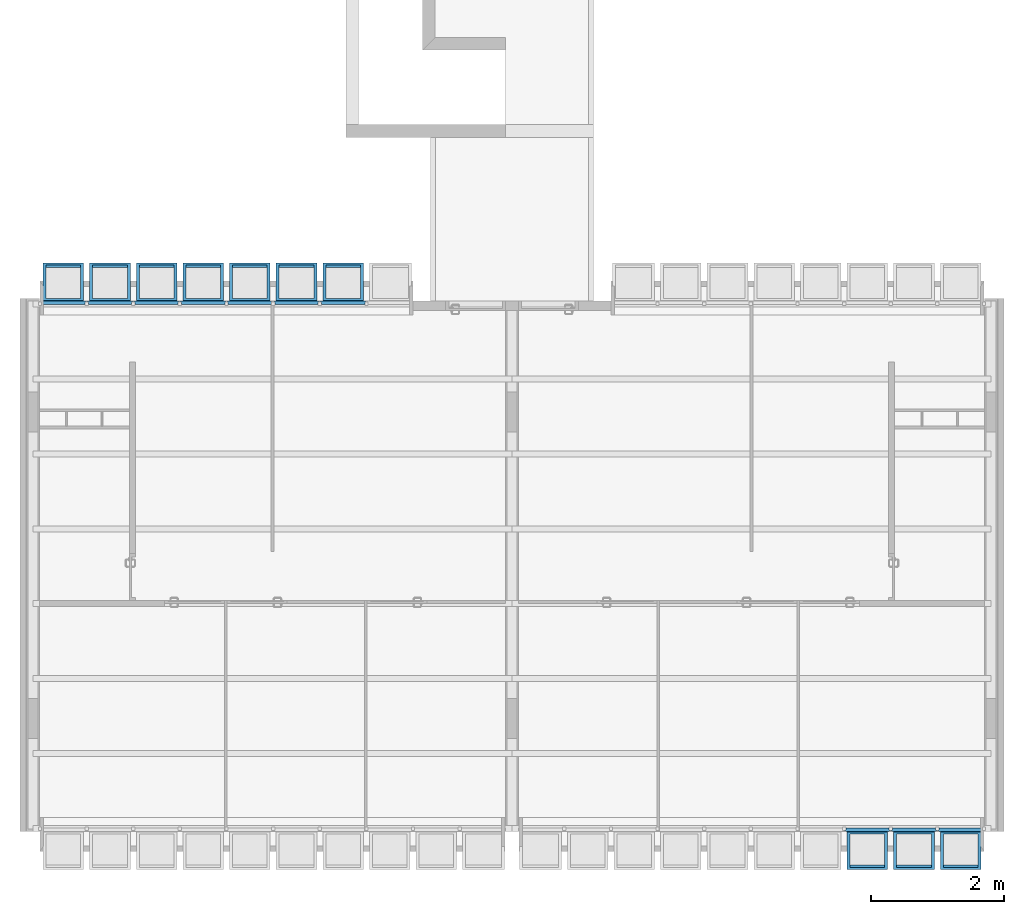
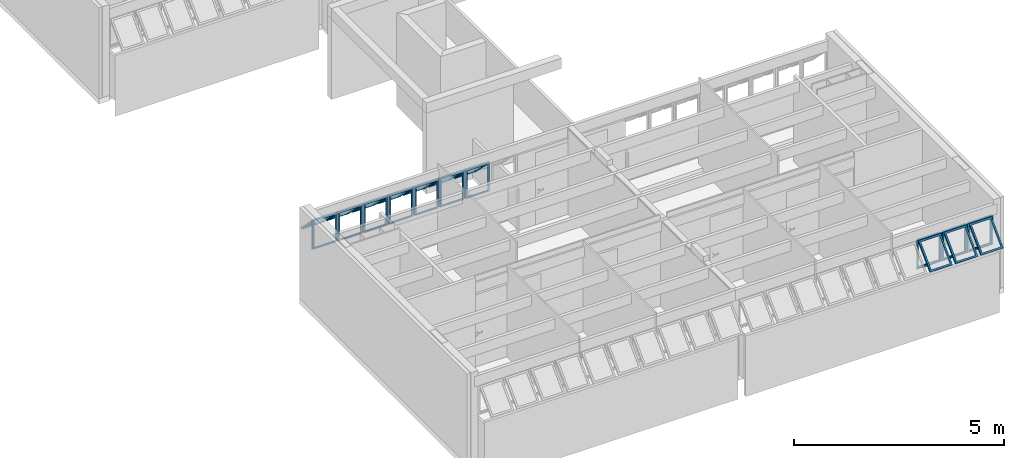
# One storey, part 29 of 37: 10 building element parts, 12 elements without a shape of their own.
"""IFC2X3 building model written with IfcOpenShell, lengths in millimetres."""

import ifcopenshell
import ifcopenshell.guid

model = None  # the IFC model being written
_history = None  # IfcOwnerHistory: only IFC2X3 demands one
_inside = {}  # id of a spatial element -> (the spatial element, [elements in it])
_under = {}  # id of a project, library or spatial element -> (it, [spatial elements below it])
_declared = {}  # id of a project -> (the project, [libraries it declares])
_typed = {}  # id of a type object -> (the type object, [elements of that type])
_made_of = {}  # id of a material, layer set ... -> (it, [elements and type objects made of it])


def new_model(schema):
    """Start an empty IFC model of exactly this schema.

    Asked for "IFC4X3", IfcOpenShell would pick the latest addendum, in which some entities
    have other attributes; the version numbers below select the first issue.
    IFC2X3 requires an IfcOwnerHistory on every rooted entity: one is made here for all.
    """
    global model, _history
    if schema == "IFC4X3":
        model = ifcopenshell.file(schema_version=(4, 3, 0, 0))
    else:
        model = ifcopenshell.file(schema=schema)
    _inside.clear()
    _under.clear()
    _declared.clear()
    _typed.clear()
    _made_of.clear()
    _history = None
    if model.schema == "IFC2X3":
        org = make("IfcOrganization", Name="unknown")
        user = make(
            "IfcPersonAndOrganization",
            ThePerson=make("IfcPerson", FamilyName="unknown"),
            TheOrganization=org,
        )
        app = make(
            "IfcApplication",
            ApplicationDeveloper=org,
            Version="unknown",
            ApplicationFullName="unknown",
            ApplicationIdentifier="unknown",
        )
        _history = make(
            "IfcOwnerHistory",
            OwningUser=user,
            OwningApplication=app,
            ChangeAction="ADDED",
            CreationDate=0,
        )
    return model


def make(cls, **values):
    """One entity of the class cls with the attributes given. An attribute that is None is left unset."""
    return model.create_entity(
        cls, **{name: value for name, value in values.items() if value is not None}
    )


def entity(cls, *values):
    """Any entity or typed value of the class cls, its attributes in the order of the schema. None: left unset."""
    e = model.create_entity(cls)
    for i, value in enumerate(values):
        if value is not None:
            e[i] = value
    return e


def rooted(cls, **values):
    """An entity with a GlobalId (a new one), such as an element, a storey or a relation."""
    return make(cls, GlobalId=ifcopenshell.guid.new(), OwnerHistory=_history, **values)


def si_unit(unit_type, name, prefix=None):
    """IfcSIUnit, for example si_unit("LENGTHUNIT", "METRE", prefix="MILLI")."""
    return make("IfcSIUnit", UnitType=unit_type, Prefix=prefix, Name=name)


def converted_unit(unit_type, name, factor, base, dimensions=None, offset=None):
    """IfcConversionBasedUnit, such as the inch: factor (a typed value) times the base unit."""
    return make(
        "IfcConversionBasedUnit"
        if offset is None
        else "IfcConversionBasedUnitWithOffset",
        ConversionOffset=offset,
        Dimensions=None
        if dimensions is None
        else entity("IfcDimensionalExponents", *dimensions),
        UnitType=unit_type,
        Name=name,
        ConversionFactor=make(
            "IfcMeasureWithUnit", ValueComponent=factor, UnitComponent=base
        ),
    )


def derived_unit(unit_type, elements):
    """IfcDerivedUnit: a product of units, each with its exponent."""
    return make(
        "IfcDerivedUnit",
        Elements=[
            make("IfcDerivedUnitElement", Unit=unit, Exponent=power)
            for unit, power in elements
        ],
        UnitType=unit_type,
    )


def money_unit(currency):
    """IfcMonetaryUnit."""
    return make("IfcMonetaryUnit", Currency=currency)


def assignment(units):
    """IfcUnitAssignment: the units of a project."""
    return None if units is None else make("IfcUnitAssignment", Units=units)


def point(xyz):
    """IfcCartesianPoint."""
    return None if xyz is None else make("IfcCartesianPoint", Coordinates=xyz)


def direction(xyz):
    """IfcDirection."""
    return None if xyz is None else make("IfcDirection", DirectionRatios=xyz)


def frame(location, z_axis=None, x_axis=None):
    """IfcAxis2Placement3D, a coordinate frame: its origin and axes. An axis left out is left unset."""
    return make(
        "IfcAxis2Placement3D",
        Location=point(location),
        Axis=direction(z_axis),
        RefDirection=direction(x_axis),
    )


def origin_with_axes():
    """The frame at (0, 0, 0) with the z axis (0, 0, 1) and the x axis (1, 0, 0) written out."""
    return frame((0.0, 0.0, 0.0), z_axis=(0.0, 0.0, 1.0), x_axis=(1.0, 0.0, 0.0))


def place(relative_to, where):
    """IfcLocalPlacement: puts the frame where relative to a parent placement (None: the world)."""
    return make(
        "IfcLocalPlacement", PlacementRelTo=relative_to, RelativePlacement=where
    )


def context(
    kind, dimensions, precision=None, world=None, true_north=None, identifier=None
):
    """IfcGeometricRepresentationContext, for example the 3D "Model" context."""
    return make(
        "IfcGeometricRepresentationContext",
        ContextIdentifier=identifier,
        ContextType=kind,
        CoordinateSpaceDimension=dimensions,
        Precision=precision,
        WorldCoordinateSystem=world,
        TrueNorth=true_north,
    )


def subcontext(parent, identifier, kind, view, scale=None):
    """IfcGeometricRepresentationSubContext, for example "Body" below "Model"."""
    return make(
        "IfcGeometricRepresentationSubContext",
        ContextIdentifier=identifier,
        ContextType=kind,
        ParentContext=parent,
        TargetScale=scale,
        TargetView=view,
    )


def project(units=None, contexts=None):
    """IfcProject with its units and contexts."""
    return rooted(
        "IfcProject",
        Name="project",
        RepresentationContexts=contexts,
        UnitsInContext=assignment(units),
    )


def spatial(cls, under=None, at=None, **own):
    """A site, building, storey or space (cls), placed at a placement, below another one or the project."""
    s = rooted(cls, ObjectPlacement=at, **own)
    if under is not None:
        _under.setdefault(under.id(), (under, []))[1].append(s)
    return s


def faces_of(points, faces, orient=None, outer=None):
    """IfcFace entities. A face is a list of loops; a loop is a list of indices into points, from 0.

    orient and outer hold one flag for each loop. By default every Orientation is true, the
    first loop of a face is its IfcFaceOuterBound and the others are IfcFaceBound.
    """
    made = []
    for i, loops in enumerate(faces):
        bounds = []
        for j, loop in enumerate(loops):
            is_outer = j == 0 if outer is None else outer[i][j]
            bounds.append(
                make(
                    "IfcFaceOuterBound" if is_outer else "IfcFaceBound",
                    Bound=make("IfcPolyLoop", Polygon=[points[k] for k in loop]),
                    Orientation=True if orient is None else orient[i][j],
                )
            )
        made.append(make("IfcFace", Bounds=bounds))
    return made


def faceted_brep(points, faces, orient=None, outer=None, voids=None):
    """IfcFacetedBrep: a solid bounded by flat faces; with voids (closed shells), ...WithVoids."""
    shared = [point(p) for p in points]
    hull = make("IfcClosedShell", CfsFaces=faces_of(shared, faces, orient, outer))
    if voids is None:
        return make("IfcFacetedBrep", Outer=hull)
    return make(
        "IfcFacetedBrepWithVoids",
        Outer=hull,
        Voids=[
            make(cls, CfsFaces=faces_of(shared, fs, o, b)) for cls, fs, o, b in voids
        ],
    )


def shape(context_of_items, identifier, shape_type, items):
    """IfcShapeRepresentation: the items that make up one representation, for example the "Body"."""
    return make(
        "IfcShapeRepresentation",
        ContextOfItems=context_of_items,
        RepresentationIdentifier=identifier,
        RepresentationType=shape_type,
        Items=items,
    )


def source(mapping_origin, context_of_items, identifier, shape_type, items):
    """IfcRepresentationMap: a shape defined once, which mapped items show again and again."""
    return make(
        "IfcRepresentationMap",
        MappingOrigin=mapping_origin,
        MappedRepresentation=shape(context_of_items, identifier, shape_type, items),
    )


def transform(
    local_origin,
    x_axis=None,
    y_axis=None,
    z_axis=None,
    scale=None,
    scale2=None,
    scale3=None,
    uniform=True,
):
    """IfcCartesianTransformationOperator3D, or its non-uniform kind. x_axis, y_axis, z_axis: its Axis1, 2, 3."""
    if uniform:
        return make(
            "IfcCartesianTransformationOperator3D",
            Axis1=direction(x_axis),
            Axis2=direction(y_axis),
            LocalOrigin=point(local_origin),
            Scale=scale,
            Axis3=direction(z_axis),
        )
    return make(
        "IfcCartesianTransformationOperator3DnonUniform",
        Axis1=direction(x_axis),
        Axis2=direction(y_axis),
        LocalOrigin=point(local_origin),
        Scale=scale,
        Axis3=direction(z_axis),
        Scale2=scale2,
        Scale3=scale3,
    )


def mapped(mapping_source, mapping_target):
    """IfcMappedItem: shows the shape of a source again, moved by a transform."""
    return make(
        "IfcMappedItem", MappingSource=mapping_source, MappingTarget=mapping_target
    )


def material(Name=None, Category=None):
    """IfcMaterial."""
    return make("IfcMaterial", Name=Name, Category=Category)


def made_of(thing, what):
    """Note that an element or type object is made of a material, layer set ...; save() writes the relation."""
    if what is not None:
        _made_of.setdefault(what.id(), (what, []))[1].append(thing)
    return thing


def type_object(cls, material=None, **own):
    """A type object (cls), such as IfcWallType, which elements share."""
    return made_of(rooted(cls, **own), material)


def element(
    cls,
    number,
    at=None,
    inside=None,
    cuts=None,
    type_object=None,
    material=None,
    context=None,
    identifier="Body",
    shape_type=None,
    held_by="IfcProductDefinitionShape",
    body=None,
    shapes=None,
    **own,
):
    """One element of the class cls, such as IfcWall. Its Tag is "e" and its number.

    at: its placement. inside: the storey or other place that contains it. cuts: it is an
    opening in that element (IfcRelVoidsElement). A single representation is given by context,
    identifier, shape_type and body (its items); several are given by shapes. held_by: the class
    of the entity that holds the representations. save() writes the other relations.
    """
    e = rooted(cls, Tag="e%d" % number, ObjectPlacement=at, **own)
    if body is not None:
        shapes = [shape(context, identifier, shape_type, body)]
    if shapes is not None:
        e.Representation = make(held_by, Representations=shapes)
    if inside is not None:
        _inside.setdefault(inside.id(), (inside, []))[1].append(e)
    if cuts is not None:
        rooted(
            "IfcRelVoidsElement", RelatingBuildingElement=cuts, RelatedOpeningElement=e
        )
    if type_object is not None:
        _typed.setdefault(type_object.id(), (type_object, []))[1].append(e)
    return made_of(e, material)


def aggregate(whole, parts):
    """IfcRelAggregates: a whole, such as a stair, and the parts it consists of."""
    return rooted("IfcRelAggregates", RelatingObject=whole, RelatedObjects=parts)


def save(model, path):
    """Write the relations noted so far, then the file.

    IfcRelAggregates (storeys below a building ...), IfcRelContainedInSpatialStructure (elements
    in a storey), IfcRelDefinesByType, IfcRelAssociatesMaterial and IfcRelDeclares: one each for
    every whole, place, type object, material and project.
    """
    for whole, parts in _under.values():
        aggregate(whole, parts)
    for where, things in _inside.values():
        rooted(
            "IfcRelContainedInSpatialStructure",
            RelatedElements=things,
            RelatingStructure=where,
        )
    for kind, things in _typed.values():
        rooted("IfcRelDefinesByType", RelatedObjects=things, RelatingType=kind)
    for what, things in _made_of.values():
        rooted("IfcRelAssociatesMaterial", RelatedObjects=things, RelatingMaterial=what)
    for by, libraries in _declared.values():
        rooted("IfcRelDeclares", RelatingContext=by, RelatedDefinitions=libraries)
    model.write(path)


model = new_model("IFC2X3")

# Units and contexts
model_context = context("Model", 3, precision=0.01, world=origin_with_axes(), true_north=direction((0.0, 1.0)))
body_context = subcontext(model_context, "Body", "Model", "MODEL_VIEW")
ifc_project = project(units=[si_unit("LENGTHUNIT", "METRE", prefix="MILLI"), si_unit("AREAUNIT", "SQUARE_METRE"), si_unit("VOLUMEUNIT", "CUBIC_METRE"), converted_unit("PLANEANGLEUNIT", "DEGREE", entity("IfcPlaneAngleMeasure", 0.0174532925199), si_unit("PLANEANGLEUNIT", "RADIAN"), dimensions=[0, 0, 0, 0, 0, 0, 0]), money_unit("USD"), converted_unit("TIMEUNIT", "Year", entity("IfcTimeMeasure", 31556926.0), si_unit("TIMEUNIT", "SECOND"), dimensions=[0, 0, 1, 0, 0, 0, 0]), si_unit("MASSUNIT", "GRAM", prefix="KILO"), si_unit("THERMODYNAMICTEMPERATUREUNIT", "DEGREE_CELSIUS"), si_unit("LUMINOUSINTENSITYUNIT", "LUMEN"), si_unit("ENERGYUNIT", "JOULE", prefix="MEGA"), derived_unit("THERMALCONDUCTANCEUNIT", [(si_unit("POWERUNIT", "WATT"), 1), (si_unit("LENGTHUNIT", "METRE"), -1), (si_unit("THERMODYNAMICTEMPERATUREUNIT", "KELVIN"), -1)]), derived_unit("SPECIFICHEATCAPACITYUNIT", [(si_unit("ENERGYUNIT", "JOULE"), 1), (si_unit("MASSUNIT", "GRAM", prefix="KILO"), -1), (si_unit("THERMODYNAMICTEMPERATUREUNIT", "KELVIN"), -1)]), derived_unit("MASSDENSITYUNIT", [(si_unit("MASSUNIT", "GRAM", prefix="KILO"), 1), (si_unit("VOLUMEUNIT", "CUBIC_METRE"), -1)])], contexts=[model_context])

# Site, building, storey
site_placement = place(None, origin_with_axes())
site = spatial("IfcSite", under=ifc_project, at=site_placement, Name="Local", CompositionType="ELEMENT")
building_placement = place(site_placement, origin_with_axes())
building = spatial("IfcBuilding", under=site, at=building_placement, Name="Construção", CompositionType="ELEMENT")
storey_placement = place(building_placement, frame((0.0, 0.0, 5300.0), z_axis=(0.0, 0.0, 1.0), x_axis=(1.0, 0.0, 0.0)))
storey = spatial("IfcBuildingStorey", under=building, at=storey_placement, Name="Terceiro Pavimento", CompositionType="ELEMENT", Elevation=5300.0)

# Window, plates, building element parts
window_style = type_object("IfcWindowStyle", Name="Tipo de Parede Cortina", ConstructionType="NOTDEFINED", OperationType="NOTDEFINED", ParameterTakesPrecedence=False, Sizeable=False)
window_1_placement = place(storey_placement, frame((2750.0, 8250.0, 1355.00007107), z_axis=(0.0, 0.0, 1.0), x_axis=(1.0, 0.0, 0.0)))
window_1 = element("IfcWindow", 1, at=window_1_placement, inside=storey, type_object=window_style, Name="APTO9-JANELA-000")
plate_type = type_object("IfcPlateType", Name="Painel Principal 690 x 845 x 20", PredefinedType="CURTAIN_PANEL")
plate_1_placement = place(window_1_placement, frame((0.0, 0.0, 422.499964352), z_axis=(0.0, 0.0, 1.0), x_axis=(-1.0, 0.0, 0.0)))
plate_1 = element("IfcPlate", 2, at=plate_1_placement, type_object=plate_type, Name="APTO9-Painel-Prin-013")
ifc_material = material(Name="Alumínio")
shared_shape_1 = source(origin_with_axes(), body_context, "Body", "Brep", [
    faceted_brep([(-25.0000036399, 0.0, -40.0), (-25.0000036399, 0.0, -35.0), (-674.999997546, 0.0, -35.0), (-674.999997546, 0.0, -40.0), (-70.0000036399, 45.0, -40.0), (-70.0000036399, 45.0, -35.0), (-629.999997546, 45.0, -35.0), (-629.999997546, 45.0, -40.0)], [[[0, 1, 2, 3]], [[4, 5, 1, 0]], [[1, 5, 6, 2]], [[3, 2, 6, 7]], [[0, 3, 7, 4]], [[7, 6, 5, 4]]]),
    faceted_brep([(-674.999997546, 0.0, -40.0), (-674.999997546, 0.0, -35.0), (-674.999997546, 844.999891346, -35.0), (-674.999997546, 844.999891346, -40.0), (-629.999997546, 45.0, -40.0), (-629.999997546, 45.0, -35.0), (-629.999997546, 799.999891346, -35.0), (-629.999997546, 799.999891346, -40.0)], [[[0, 1, 2, 3]], [[4, 5, 1, 0]], [[1, 5, 6, 2]], [[3, 2, 6, 7]], [[0, 3, 7, 4]], [[7, 6, 5, 4]]]),
    faceted_brep([(-25.0000036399, 844.999891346, -40.0), (-25.0000036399, 844.999891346, -35.0), (-70.0000036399, 799.999891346, -35.0), (-70.0000036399, 799.999891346, -40.0), (-674.999997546, 844.999891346, -40.0), (-674.999997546, 844.999891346, -35.0), (-629.999997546, 799.999891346, -35.0), (-629.999997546, 799.999891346, -40.0)], [[[0, 1, 2, 3]], [[4, 5, 1, 0]], [[1, 5, 6, 2]], [[3, 2, 6, 7]], [[0, 3, 7, 4]], [[7, 6, 5, 4]]]),
    faceted_brep([(-25.0000036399, 0.0, -40.0), (-25.0000036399, 0.0, -35.0), (-70.0000036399, 45.0, -35.0), (-70.0000036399, 45.0, -40.0), (-25.0000036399, 844.999891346, -40.0), (-25.0000036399, 844.999891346, -35.0), (-70.0000036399, 799.999891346, -35.0), (-70.0000036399, 799.999891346, -40.0)], [[[0, 1, 2, 3]], [[4, 5, 1, 0]], [[1, 5, 6, 2]], [[3, 2, 6, 7]], [[0, 3, 7, 4]], [[7, 6, 5, 4]]]),
    faceted_brep([(-25.0000036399, 0.0, -35.0), (-25.0000036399, 0.0, 15.0), (-674.999997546, 0.0, 15.0), (-674.999997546, 0.0, -35.0), (-45.0000036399, 20.0, -35.0), (-45.0000036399, 20.0, 15.0), (-654.999997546, 20.0, 15.0), (-654.999997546, 20.0, -35.0)], [[[0, 1, 2, 3]], [[4, 5, 1, 0]], [[1, 5, 6, 2]], [[3, 2, 6, 7]], [[0, 3, 7, 4]], [[7, 6, 5, 4]]]),
    faceted_brep([(-674.999997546, 0.0, -35.0), (-674.999997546, 0.0, 15.0), (-674.999997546, 844.999891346, 15.0), (-674.999997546, 844.999891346, -35.0), (-654.999997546, 20.0, -35.0), (-654.999997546, 20.0, 15.0), (-654.999997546, 824.999891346, 15.0), (-654.999997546, 824.999891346, -35.0)], [[[0, 1, 2, 3]], [[4, 5, 1, 0]], [[1, 5, 6, 2]], [[3, 2, 6, 7]], [[0, 3, 7, 4]], [[7, 6, 5, 4]]]),
    faceted_brep([(-25.0000036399, 844.999891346, -35.0), (-25.0000036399, 844.999891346, 15.0), (-45.0000036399, 824.999891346, 15.0), (-45.0000036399, 824.999891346, -35.0), (-674.999997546, 844.999891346, -35.0), (-674.999997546, 844.999891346, 15.0), (-654.999997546, 824.999891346, 15.0), (-654.999997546, 824.999891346, -35.0)], [[[0, 1, 2, 3]], [[4, 5, 1, 0]], [[1, 5, 6, 2]], [[3, 2, 6, 7]], [[0, 3, 7, 4]], [[7, 6, 5, 4]]]),
    faceted_brep([(-25.0000036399, 0.0, -35.0), (-25.0000036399, 0.0, 15.0), (-45.0000036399, 20.0, 15.0), (-45.0000036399, 20.0, -35.0), (-25.0000036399, 844.999891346, -35.0), (-25.0000036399, 844.999891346, 15.0), (-45.0000036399, 824.999891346, 15.0), (-45.0000036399, 824.999891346, -35.0)], [[[0, 1, 2, 3]], [[4, 5, 1, 0]], [[1, 5, 6, 2]], [[3, 2, 6, 7]], [[0, 3, 7, 4]], [[7, 6, 5, 4]]]),
    faceted_brep([(-694.999995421, 0.0, -10.0), (-694.999995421, 0.0, 10.0), (-694.999995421, 844.999891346, 10.0), (-694.999995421, 844.999891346, -10.0), (-674.999997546, 0.0, -10.0), (-674.999997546, 0.0, 10.0), (-674.999997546, 844.999891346, 10.0), (-674.999997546, 844.999891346, -10.0)], [[[0, 1, 2, 3]], [[4, 5, 1, 0]], [[1, 5, 6, 2]], [[3, 2, 6, 7]], [[0, 3, 7, 4]], [[7, 6, 5, 4]]]),
    faceted_brep([(-5.00000576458, 844.999891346, -10.0), (-5.00000576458, 844.999891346, 10.0), (-5.00000576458, 0.0, 10.0), (-5.00000576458, 0.0, -10.0), (-25.0000036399, 844.999891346, -10.0), (-25.0000036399, 844.999891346, 10.0), (-25.0000036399, 0.0, 10.0), (-25.0000036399, 0.0, -10.0)], [[[0, 1, 2, 3]], [[4, 5, 1, 0]], [[1, 5, 6, 2]], [[3, 2, 6, 7]], [[0, 3, 7, 4]], [[7, 6, 5, 4]]]),
    faceted_brep([(-90.0000036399, 252.243475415, 517.045737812), (-90.0000036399, 291.13434838, 555.936610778), (-90.0000036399, 796.715620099, 50.3553390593), (-90.0000036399, 757.824747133, 11.4644660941), (-45.0000036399, 220.423670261, 548.865542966), (-45.0000036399, 259.314543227, 587.756415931), (-45.0000036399, 828.535425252, 18.5355339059), (-45.0000036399, 789.644552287, -20.3553390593)], [[[0, 1, 2, 3]], [[4, 5, 1, 0]], [[1, 5, 6, 2]], [[3, 2, 6, 7]], [[0, 3, 7, 4]], [[7, 6, 5, 4]]]),
    faceted_brep([(-654.999997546, 220.423670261, 548.865542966), (-654.999997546, 259.314543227, 587.756415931), (-654.999997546, 828.535425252, 18.5355339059), (-654.999997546, 789.644552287, -20.3553390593), (-609.999997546, 252.243475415, 517.045737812), (-609.999997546, 291.13434838, 555.936610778), (-609.999997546, 796.715620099, 50.3553390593), (-609.999997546, 757.824747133, 11.4644660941)], [[[0, 1, 2, 3]], [[4, 5, 1, 0]], [[1, 5, 6, 2]], [[3, 2, 6, 7]], [[0, 3, 7, 4]], [[7, 6, 5, 4]]]),
    faceted_brep([(-654.999997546, 220.423670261, 548.865542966), (-654.999997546, 259.314543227, 587.756415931), (-609.999997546, 291.13434838, 555.936610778), (-609.999997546, 252.243475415, 517.045737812), (-45.0000036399, 220.423670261, 548.865542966), (-45.0000036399, 259.314543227, 587.756415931), (-90.0000036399, 291.13434838, 555.936610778), (-90.0000036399, 252.243475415, 517.045737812)], [[[0, 1, 2, 3]], [[4, 5, 1, 0]], [[1, 5, 6, 2]], [[3, 2, 6, 7]], [[0, 3, 7, 4]], [[7, 6, 5, 4]]]),
    faceted_brep([(-45.0000036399, 789.644552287, -20.3553390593), (-45.0000036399, 828.535425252, 18.5355339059), (-90.0000036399, 796.715620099, 50.3553390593), (-90.0000036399, 757.824747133, 11.4644660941), (-654.999997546, 789.644552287, -20.3553390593), (-654.999997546, 828.535425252, 18.5355339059), (-609.999997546, 796.715620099, 50.3553390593), (-609.999997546, 757.824747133, 11.4644660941)], [[[0, 1, 2, 3]], [[4, 5, 1, 0]], [[1, 5, 6, 2]], [[3, 2, 6, 7]], [[0, 3, 7, 4]], [[7, 6, 5, 4]]]),
])
building_element_part_1_placement = place(plate_1_placement, origin_with_axes())
building_element_part_1 = element("IfcBuildingElementPart", 3, at=building_element_part_1_placement, material=ifc_material, Name="Alumínio", context=body_context, shape_type="MappedRepresentation", body=[
    mapped(shared_shape_1, transform((350.0, 0.0, -422.499964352), x_axis=(1.0, 0.0, 0.0), y_axis=(0.0, 0.0, 1.0), z_axis=(0.0, -1.0, 0.0))),
])
aggregate(plate_1, [building_element_part_1])
plate_2_placement = place(window_1_placement, frame((2100.0, 0.0, 422.499964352), z_axis=(0.0, 0.0, 1.0), x_axis=(-1.0, 0.0, 0.0)))
plate_2 = element("IfcPlate", 4, at=plate_2_placement, type_object=plate_type, Name="APTO9-Painel-Prin-029")
building_element_part_2_placement = place(plate_2_placement, origin_with_axes())
building_element_part_2 = element("IfcBuildingElementPart", 5, at=building_element_part_2_placement, material=ifc_material, Name="Alumínio", context=body_context, shape_type="MappedRepresentation", body=[
    mapped(shared_shape_1, transform((350.0, 0.0, -422.499964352), x_axis=(1.0, 0.0, 0.0), y_axis=(0.0, 0.0, 1.0), z_axis=(0.0, -1.0, 0.0))),
])
aggregate(plate_2, [building_element_part_2])
plate_3_placement = place(window_1_placement, frame((-2100.0, 0.0, 422.499998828), z_axis=(0.0, 0.0, 1.0), x_axis=(-1.0, 0.0, 0.0)))
plate_3 = element("IfcPlate", 6, at=plate_3_placement, type_object=plate_type, Name="APTO9-Painel-Prin-013")
shared_shape_2 = source(origin_with_axes(), body_context, "Body", "Brep", [
    faceted_brep([(-25.0000036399, 0.0, -40.0), (-25.0000036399, 0.0, -35.0), (-674.999997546, 0.0, -35.0), (-674.999997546, 0.0, -40.0), (-70.0000036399, 45.0, -40.0), (-70.0000036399, 45.0, -35.0), (-629.999997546, 45.0, -35.0), (-629.999997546, 45.0, -40.0)], [[[0, 1, 2, 3]], [[4, 5, 1, 0]], [[1, 5, 6, 2]], [[3, 2, 6, 7]], [[0, 3, 7, 4]], [[7, 6, 5, 4]]]),
    faceted_brep([(-674.999997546, 0.0, -40.0), (-674.999997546, 0.0, -35.0), (-674.999997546, 844.999891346, -35.0), (-674.999997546, 844.999891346, -40.0), (-629.999997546, 45.0, -40.0), (-629.999997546, 45.0, -35.0), (-629.999997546, 799.999891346, -35.0), (-629.999997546, 799.999891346, -40.0)], [[[0, 1, 2, 3]], [[4, 5, 1, 0]], [[1, 5, 6, 2]], [[3, 2, 6, 7]], [[0, 3, 7, 4]], [[7, 6, 5, 4]]]),
    faceted_brep([(-25.0000036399, 844.999891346, -40.0), (-25.0000036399, 844.999891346, -35.0), (-70.0000036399, 799.999891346, -35.0), (-70.0000036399, 799.999891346, -40.0), (-674.999997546, 844.999891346, -40.0), (-674.999997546, 844.999891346, -35.0), (-629.999997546, 799.999891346, -35.0), (-629.999997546, 799.999891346, -40.0)], [[[0, 1, 2, 3]], [[4, 5, 1, 0]], [[1, 5, 6, 2]], [[3, 2, 6, 7]], [[0, 3, 7, 4]], [[7, 6, 5, 4]]]),
    faceted_brep([(-25.0000036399, 0.0, -40.0), (-25.0000036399, 0.0, -35.0), (-70.0000036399, 45.0, -35.0), (-70.0000036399, 45.0, -40.0), (-25.0000036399, 844.999891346, -40.0), (-25.0000036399, 844.999891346, -35.0), (-70.0000036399, 799.999891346, -35.0), (-70.0000036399, 799.999891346, -40.0)], [[[0, 1, 2, 3]], [[4, 5, 1, 0]], [[1, 5, 6, 2]], [[3, 2, 6, 7]], [[0, 3, 7, 4]], [[7, 6, 5, 4]]]),
    faceted_brep([(-25.0000036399, 0.0, -35.0), (-25.0000036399, 0.0, 15.0), (-674.999997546, 0.0, 15.0), (-674.999997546, 0.0, -35.0), (-45.0000036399, 20.0, -35.0), (-45.0000036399, 20.0, 15.0), (-654.999997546, 20.0, 15.0), (-654.999997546, 20.0, -35.0)], [[[0, 1, 2, 3]], [[4, 5, 1, 0]], [[1, 5, 6, 2]], [[3, 2, 6, 7]], [[0, 3, 7, 4]], [[7, 6, 5, 4]]]),
    faceted_brep([(-674.999997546, 0.0, -35.0), (-674.999997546, 0.0, 15.0), (-674.999997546, 844.999891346, 15.0), (-674.999997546, 844.999891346, -35.0), (-654.999997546, 20.0, -35.0), (-654.999997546, 20.0, 15.0), (-654.999997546, 824.999891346, 15.0), (-654.999997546, 824.999891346, -35.0)], [[[0, 1, 2, 3]], [[4, 5, 1, 0]], [[1, 5, 6, 2]], [[3, 2, 6, 7]], [[0, 3, 7, 4]], [[7, 6, 5, 4]]]),
    faceted_brep([(-25.0000036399, 844.999891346, -35.0), (-25.0000036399, 844.999891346, 15.0), (-45.0000036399, 824.999891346, 15.0), (-45.0000036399, 824.999891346, -35.0), (-674.999997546, 844.999891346, -35.0), (-674.999997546, 844.999891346, 15.0), (-654.999997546, 824.999891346, 15.0), (-654.999997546, 824.999891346, -35.0)], [[[0, 1, 2, 3]], [[4, 5, 1, 0]], [[1, 5, 6, 2]], [[3, 2, 6, 7]], [[0, 3, 7, 4]], [[7, 6, 5, 4]]]),
    faceted_brep([(-25.0000036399, 0.0, -35.0), (-25.0000036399, 0.0, 15.0), (-45.0000036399, 20.0, 15.0), (-45.0000036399, 20.0, -35.0), (-25.0000036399, 844.999891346, -35.0), (-25.0000036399, 844.999891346, 15.0), (-45.0000036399, 824.999891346, 15.0), (-45.0000036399, 824.999891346, -35.0)], [[[0, 1, 2, 3]], [[4, 5, 1, 0]], [[1, 5, 6, 2]], [[3, 2, 6, 7]], [[0, 3, 7, 4]], [[7, 6, 5, 4]]]),
    faceted_brep([(-694.999995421, 0.0, -10.0), (-694.999995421, 0.0, 10.0), (-694.999995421, 844.999891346, 10.0), (-694.999995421, 844.999891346, -10.0), (-674.999997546, 0.0, -10.0), (-674.999997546, 0.0, 10.0), (-674.999997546, 844.999891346, 10.0), (-674.999997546, 844.999891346, -10.0)], [[[0, 1, 2, 3]], [[4, 5, 1, 0]], [[1, 5, 6, 2]], [[3, 2, 6, 7]], [[0, 3, 7, 4]], [[7, 6, 5, 4]]]),
    faceted_brep([(-5.00000576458, 844.999891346, -10.0), (-5.00000576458, 844.999891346, 10.0), (-5.00000576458, 0.0, 10.0), (-5.00000576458, 0.0, -10.0), (-25.0000036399, 844.999891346, -10.0), (-25.0000036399, 844.999891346, 10.0), (-25.0000036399, 0.0, 10.0), (-25.0000036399, 0.0, -10.0)], [[[0, 1, 2, 3]], [[4, 5, 1, 0]], [[1, 5, 6, 2]], [[3, 2, 6, 7]], [[0, 3, 7, 4]], [[7, 6, 5, 4]]]),
    faceted_brep([(-90.0000036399, 252.243475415, 517.045737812), (-90.0000036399, 291.13434838, 555.936610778), (-90.0000036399, 796.715620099, 50.3553390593), (-90.0000036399, 757.824747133, 11.4644660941), (-45.0000036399, 220.423670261, 548.865542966), (-45.0000036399, 259.314543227, 587.756415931), (-45.0000036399, 828.535425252, 18.5355339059), (-45.0000036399, 789.644552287, -20.3553390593)], [[[0, 1, 2, 3]], [[4, 5, 1, 0]], [[1, 5, 6, 2]], [[3, 2, 6, 7]], [[0, 3, 7, 4]], [[7, 6, 5, 4]]]),
    faceted_brep([(-654.999997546, 220.423670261, 548.865542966), (-654.999997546, 259.314543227, 587.756415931), (-654.999997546, 828.535425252, 18.5355339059), (-654.999997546, 789.644552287, -20.3553390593), (-609.999997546, 252.243475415, 517.045737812), (-609.999997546, 291.13434838, 555.936610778), (-609.999997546, 796.715620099, 50.3553390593), (-609.999997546, 757.824747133, 11.4644660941)], [[[0, 1, 2, 3]], [[4, 5, 1, 0]], [[1, 5, 6, 2]], [[3, 2, 6, 7]], [[0, 3, 7, 4]], [[7, 6, 5, 4]]]),
    faceted_brep([(-654.999997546, 220.423670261, 548.865542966), (-654.999997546, 259.314543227, 587.756415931), (-609.999997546, 291.13434838, 555.936610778), (-609.999997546, 252.243475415, 517.045737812), (-45.0000036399, 220.423670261, 548.865542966), (-45.0000036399, 259.314543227, 587.756415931), (-90.0000036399, 291.13434838, 555.936610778), (-90.0000036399, 252.243475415, 517.045737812)], [[[0, 1, 2, 3]], [[4, 5, 1, 0]], [[1, 5, 6, 2]], [[3, 2, 6, 7]], [[0, 3, 7, 4]], [[7, 6, 5, 4]]]),
    faceted_brep([(-45.0000036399, 789.644552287, -20.3553390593), (-45.0000036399, 828.535425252, 18.5355339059), (-90.0000036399, 796.715620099, 50.3553390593), (-90.0000036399, 757.824747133, 11.4644660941), (-654.999997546, 789.644552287, -20.3553390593), (-654.999997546, 828.535425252, 18.5355339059), (-609.999997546, 796.715620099, 50.3553390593), (-609.999997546, 757.824747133, 11.4644660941)], [[[0, 1, 2, 3]], [[4, 5, 1, 0]], [[1, 5, 6, 2]], [[3, 2, 6, 7]], [[0, 3, 7, 4]], [[7, 6, 5, 4]]]),
])
building_element_part_3_placement = place(plate_3_placement, origin_with_axes())
building_element_part_3 = element("IfcBuildingElementPart", 7, at=building_element_part_3_placement, material=ifc_material, Name="Alumínio", context=body_context, shape_type="MappedRepresentation", body=[
    mapped(shared_shape_2, transform((350.0, 0.0, -422.499998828), x_axis=(1.0, 0.0, 0.0), y_axis=(0.0, 0.0, 1.0), z_axis=(0.0, -1.0, 0.0))),
])
aggregate(plate_3, [building_element_part_3])
plate_4_placement = place(window_1_placement, frame((-1400.0, 0.0, 422.499964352), z_axis=(0.0, 0.0, 1.0), x_axis=(-1.0, 0.0, 0.0)))
plate_4 = element("IfcPlate", 8, at=plate_4_placement, type_object=plate_type, Name="APTO9-Painel-Prin-013")
building_element_part_4_placement = place(plate_4_placement, origin_with_axes())
building_element_part_4 = element("IfcBuildingElementPart", 9, at=building_element_part_4_placement, material=ifc_material, Name="Alumínio", context=body_context, shape_type="MappedRepresentation", body=[
    mapped(shared_shape_2, transform((350.0, 0.0, -422.499964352), x_axis=(1.0, 0.0, 0.0), y_axis=(0.0, 0.0, 1.0), z_axis=(0.0, -1.0, 0.0))),
])
aggregate(plate_4, [building_element_part_4])
plate_5_placement = place(window_1_placement, frame((1400.0, 0.0, 422.499964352), z_axis=(0.0, 0.0, 1.0), x_axis=(-1.0, 0.0, 0.0)))
plate_5 = element("IfcPlate", 10, at=plate_5_placement, type_object=plate_type, Name="APTO9-Painel-Prin-025")
building_element_part_5_placement = place(plate_5_placement, origin_with_axes())
building_element_part_5 = element("IfcBuildingElementPart", 11, at=building_element_part_5_placement, material=ifc_material, Name="Alumínio", context=body_context, shape_type="MappedRepresentation", body=[
    mapped(shared_shape_2, transform((350.0, 0.0, -422.499964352), x_axis=(1.0, 0.0, 0.0), y_axis=(0.0, 0.0, 1.0), z_axis=(0.0, -1.0, 0.0))),
])
aggregate(plate_5, [building_element_part_5])

window_2_placement = place(storey_placement, frame((8520.0, 315.020977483, 1355.02054151), z_axis=(0.0, 0.0, 1.0), x_axis=(1.0, 0.0, 0.0)))
window_2 = element("IfcWindow", 12, at=window_2_placement, inside=storey, type_object=window_style, Name="APTO10-JANELA-001")
plate_6_placement = place(window_2_placement, frame((5600.0, 0.0, 422.499945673), z_axis=(0.0, 0.0, 1.0), x_axis=(1.0, 0.0, 0.0)))
plate_6 = element("IfcPlate", 13, at=plate_6_placement, type_object=plate_type, Name="APTO10-Painel-Prin-013")
building_element_part_6_placement = place(plate_6_placement, origin_with_axes())
building_element_part_6 = element("IfcBuildingElementPart", 14, at=building_element_part_6_placement, material=ifc_material, Name="Alumínio", context=body_context, shape_type="MappedRepresentation", body=[
    mapped(shared_shape_2, transform((350.0, 0.0, -422.499945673), x_axis=(1.0, 0.0, 0.0), y_axis=(0.0, 0.0, 1.0), z_axis=(0.0, -1.0, 0.0))),
])
aggregate(plate_6, [building_element_part_6])
plate_7_placement = place(window_2_placement, frame((4900.0, 0.0, 422.499945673), z_axis=(0.0, 0.0, 1.0), x_axis=(1.0, 0.0, 0.0)))
plate_7 = element("IfcPlate", 15, at=plate_7_placement, type_object=plate_type, Name="APTO10-Painel-Prin-013")
building_element_part_7_placement = place(plate_7_placement, origin_with_axes())
building_element_part_7 = element("IfcBuildingElementPart", 16, at=building_element_part_7_placement, material=ifc_material, Name="Alumínio", context=body_context, shape_type="MappedRepresentation", body=[
    mapped(shared_shape_2, transform((350.0, 0.0, -422.499945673), x_axis=(1.0, 0.0, 0.0), y_axis=(0.0, 0.0, 1.0), z_axis=(0.0, -1.0, 0.0))),
])
aggregate(plate_7, [building_element_part_7])

# Plate, building element part
plate_8_placement = place(window_1_placement, frame((700.0, 0.0, 422.499964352), z_axis=(0.0, 0.0, 1.0), x_axis=(-1.0, 0.0, 0.0)))
plate_8 = element("IfcPlate", 17, at=plate_8_placement, type_object=plate_type, Name="APTO9-Painel-Prin-013")
shared_shape_3 = source(origin_with_axes(), body_context, "Body", "Brep", [
    faceted_brep([(-25.0000036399, 0.0, -40.0), (-25.0000036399, 0.0, -35.0), (-674.999997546, 0.0, -35.0), (-674.999997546, 0.0, -40.0), (-70.0000036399, 45.0, -40.0), (-70.0000036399, 45.0, -35.0), (-629.999997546, 45.0, -35.0), (-629.999997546, 45.0, -40.0)], [[[0, 1, 2, 3]], [[4, 5, 1, 0]], [[1, 5, 6, 2]], [[3, 2, 6, 7]], [[0, 3, 7, 4]], [[7, 6, 5, 4]]]),
    faceted_brep([(-674.999997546, 0.0, -40.0), (-674.999997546, 0.0, -35.0), (-674.999997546, 844.999891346, -35.0), (-674.999997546, 844.999891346, -40.0), (-629.999997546, 45.0, -40.0), (-629.999997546, 45.0, -35.0), (-629.999997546, 799.999891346, -35.0), (-629.999997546, 799.999891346, -40.0)], [[[0, 1, 2, 3]], [[4, 5, 1, 0]], [[1, 5, 6, 2]], [[3, 2, 6, 7]], [[0, 3, 7, 4]], [[7, 6, 5, 4]]]),
    faceted_brep([(-25.0000036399, 844.999891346, -40.0), (-25.0000036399, 844.999891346, -35.0), (-70.0000036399, 799.999891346, -35.0), (-70.0000036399, 799.999891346, -40.0), (-674.999997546, 844.999891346, -40.0), (-674.999997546, 844.999891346, -35.0), (-629.999997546, 799.999891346, -35.0), (-629.999997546, 799.999891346, -40.0)], [[[0, 1, 2, 3]], [[4, 5, 1, 0]], [[1, 5, 6, 2]], [[3, 2, 6, 7]], [[0, 3, 7, 4]], [[7, 6, 5, 4]]]),
    faceted_brep([(-25.0000036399, 0.0, -40.0), (-25.0000036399, 0.0, -35.0), (-70.0000036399, 45.0, -35.0), (-70.0000036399, 45.0, -40.0), (-25.0000036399, 844.999891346, -40.0), (-25.0000036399, 844.999891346, -35.0), (-70.0000036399, 799.999891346, -35.0), (-70.0000036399, 799.999891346, -40.0)], [[[0, 1, 2, 3]], [[4, 5, 1, 0]], [[1, 5, 6, 2]], [[3, 2, 6, 7]], [[0, 3, 7, 4]], [[7, 6, 5, 4]]]),
    faceted_brep([(-25.0000036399, 0.0, -35.0), (-25.0000036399, 0.0, 15.0), (-674.999997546, 0.0, 15.0), (-674.999997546, 0.0, -35.0), (-45.0000036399, 20.0, -35.0), (-45.0000036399, 20.0, 15.0), (-654.999997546, 20.0, 15.0), (-654.999997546, 20.0, -35.0)], [[[0, 1, 2, 3]], [[4, 5, 1, 0]], [[1, 5, 6, 2]], [[3, 2, 6, 7]], [[0, 3, 7, 4]], [[7, 6, 5, 4]]]),
    faceted_brep([(-674.999997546, 0.0, -35.0), (-674.999997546, 0.0, 15.0), (-674.999997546, 844.999891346, 15.0), (-674.999997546, 844.999891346, -35.0), (-654.999997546, 20.0, -35.0), (-654.999997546, 20.0, 15.0), (-654.999997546, 824.999891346, 15.0), (-654.999997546, 824.999891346, -35.0)], [[[0, 1, 2, 3]], [[4, 5, 1, 0]], [[1, 5, 6, 2]], [[3, 2, 6, 7]], [[0, 3, 7, 4]], [[7, 6, 5, 4]]]),
    faceted_brep([(-25.0000036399, 844.999891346, -35.0), (-25.0000036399, 844.999891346, 15.0), (-45.0000036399, 824.999891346, 15.0), (-45.0000036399, 824.999891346, -35.0), (-674.999997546, 844.999891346, -35.0), (-674.999997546, 844.999891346, 15.0), (-654.999997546, 824.999891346, 15.0), (-654.999997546, 824.999891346, -35.0)], [[[0, 1, 2, 3]], [[4, 5, 1, 0]], [[1, 5, 6, 2]], [[3, 2, 6, 7]], [[0, 3, 7, 4]], [[7, 6, 5, 4]]]),
    faceted_brep([(-25.0000036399, 0.0, -35.0), (-25.0000036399, 0.0, 15.0), (-45.0000036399, 20.0, 15.0), (-45.0000036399, 20.0, -35.0), (-25.0000036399, 844.999891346, -35.0), (-25.0000036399, 844.999891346, 15.0), (-45.0000036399, 824.999891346, 15.0), (-45.0000036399, 824.999891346, -35.0)], [[[0, 1, 2, 3]], [[4, 5, 1, 0]], [[1, 5, 6, 2]], [[3, 2, 6, 7]], [[0, 3, 7, 4]], [[7, 6, 5, 4]]]),
    faceted_brep([(-694.999995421, 0.0, -10.0), (-694.999995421, 0.0, 10.0), (-694.999995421, 844.999891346, 10.0), (-694.999995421, 844.999891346, -10.0), (-674.999997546, 0.0, -10.0), (-674.999997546, 0.0, 10.0), (-674.999997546, 844.999891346, 10.0), (-674.999997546, 844.999891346, -10.0)], [[[0, 1, 2, 3]], [[4, 5, 1, 0]], [[1, 5, 6, 2]], [[3, 2, 6, 7]], [[0, 3, 7, 4]], [[7, 6, 5, 4]]]),
    faceted_brep([(-5.00000576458, 844.999891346, -10.0), (-5.00000576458, 844.999891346, 10.0), (-5.00000576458, 0.0, 10.0), (-5.00000576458, 0.0, -10.0), (-25.0000036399, 844.999891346, -10.0), (-25.0000036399, 844.999891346, 10.0), (-25.0000036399, 0.0, 10.0), (-25.0000036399, 0.0, -10.0)], [[[0, 1, 2, 3]], [[4, 5, 1, 0]], [[1, 5, 6, 2]], [[3, 2, 6, 7]], [[0, 3, 7, 4]], [[7, 6, 5, 4]]]),
    faceted_brep([(-90.0000036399, 252.243475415, 517.045737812), (-90.0000036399, 291.13434838, 555.936610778), (-90.0000036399, 796.715620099, 50.3553390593), (-90.0000036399, 757.824747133, 11.4644660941), (-45.0000036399, 220.423670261, 548.865542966), (-45.0000036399, 259.314543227, 587.756415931), (-45.0000036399, 828.535425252, 18.5355339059), (-45.0000036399, 789.644552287, -20.3553390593)], [[[0, 1, 2, 3]], [[4, 5, 1, 0]], [[1, 5, 6, 2]], [[3, 2, 6, 7]], [[0, 3, 7, 4]], [[7, 6, 5, 4]]]),
    faceted_brep([(-654.999997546, 220.423670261, 548.865542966), (-654.999997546, 259.314543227, 587.756415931), (-654.999997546, 828.535425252, 18.5355339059), (-654.999997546, 789.644552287, -20.3553390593), (-609.999997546, 252.243475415, 517.045737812), (-609.999997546, 291.13434838, 555.936610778), (-609.999997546, 796.715620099, 50.3553390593), (-609.999997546, 757.824747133, 11.4644660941)], [[[0, 1, 2, 3]], [[4, 5, 1, 0]], [[1, 5, 6, 2]], [[3, 2, 6, 7]], [[0, 3, 7, 4]], [[7, 6, 5, 4]]]),
    faceted_brep([(-654.999997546, 220.423670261, 548.865542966), (-654.999997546, 259.314543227, 587.756415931), (-609.999997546, 291.13434838, 555.936610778), (-609.999997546, 252.243475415, 517.045737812), (-45.0000036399, 220.423670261, 548.865542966), (-45.0000036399, 259.314543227, 587.756415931), (-90.0000036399, 291.13434838, 555.936610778), (-90.0000036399, 252.243475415, 517.045737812)], [[[0, 1, 2, 3]], [[4, 5, 1, 0]], [[1, 5, 6, 2]], [[3, 2, 6, 7]], [[0, 3, 7, 4]], [[7, 6, 5, 4]]]),
    faceted_brep([(-45.0000036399, 789.644552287, -20.3553390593), (-45.0000036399, 828.535425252, 18.5355339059), (-90.0000036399, 796.715620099, 50.3553390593), (-90.0000036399, 757.824747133, 11.4644660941), (-654.999997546, 789.644552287, -20.3553390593), (-654.999997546, 828.535425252, 18.5355339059), (-609.999997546, 796.715620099, 50.3553390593), (-609.999997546, 757.824747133, 11.4644660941)], [[[0, 1, 2, 3]], [[4, 5, 1, 0]], [[1, 5, 6, 2]], [[3, 2, 6, 7]], [[0, 3, 7, 4]], [[7, 6, 5, 4]]]),
])
building_element_part_8_placement = place(plate_8_placement, origin_with_axes())
building_element_part_8 = element("IfcBuildingElementPart", 18, at=building_element_part_8_placement, material=ifc_material, Name="Alumínio", context=body_context, shape_type="MappedRepresentation", body=[
    mapped(shared_shape_3, transform((350.0, 0.0, -422.499964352), x_axis=(1.0, 0.0, 0.0), y_axis=(0.0, 0.0, 1.0), z_axis=(0.0, -1.0, 0.0))),
])
aggregate(plate_8, [building_element_part_8])

# Plate
plate_9_placement = place(window_1_placement, frame((-700.0, 0.0, 422.499964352), z_axis=(0.0, 0.0, 1.0), x_axis=(-1.0, 0.0, 0.0)))
plate_9 = element("IfcPlate", 19, at=plate_9_placement, type_object=plate_type, Name="APTO9-Painel-Prin-013")

aggregate(window_1, [plate_1, plate_2, plate_3, plate_4, plate_8, plate_5, plate_9])

# Building element part
building_element_part_9_placement = place(plate_9_placement, origin_with_axes())
building_element_part_9 = element("IfcBuildingElementPart", 20, at=building_element_part_9_placement, material=ifc_material, Name="Alumínio", context=body_context, shape_type="MappedRepresentation", body=[
    mapped(shared_shape_3, transform((350.0, 0.0, -422.499964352), x_axis=(1.0, 0.0, 0.0), y_axis=(0.0, 0.0, 1.0), z_axis=(0.0, -1.0, 0.0))),
])

aggregate(plate_9, [building_element_part_9])

# Plate
plate_10_placement = place(window_2_placement, frame((4200.0, 0.0, 422.499945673), z_axis=(0.0, 0.0, 1.0), x_axis=(1.0, 0.0, 0.0)))
plate_10 = element("IfcPlate", 21, at=plate_10_placement, type_object=plate_type, Name="APTO10-Painel-Prin-013")

aggregate(window_2, [plate_6, plate_7, plate_10])

# Building element part
building_element_part_10_placement = place(plate_10_placement, origin_with_axes())
building_element_part_10 = element("IfcBuildingElementPart", 22, at=building_element_part_10_placement, material=ifc_material, Name="Alumínio", context=body_context, shape_type="MappedRepresentation", body=[
    mapped(shared_shape_3, transform((350.0, 0.0, -422.499945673), x_axis=(1.0, 0.0, 0.0), y_axis=(0.0, 0.0, 1.0), z_axis=(0.0, -1.0, 0.0))),
])

aggregate(plate_10, [building_element_part_10])

save(model, "model.ifc")
